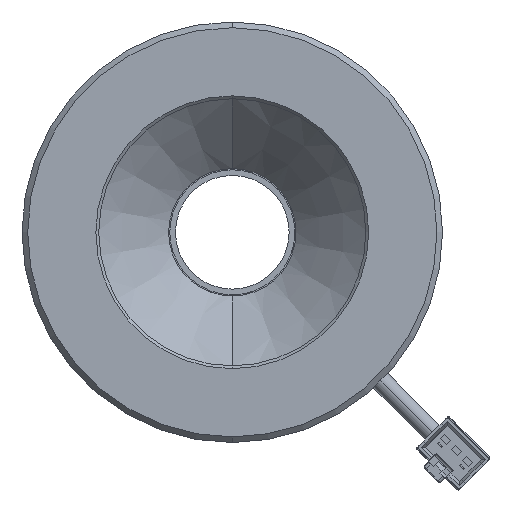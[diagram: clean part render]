
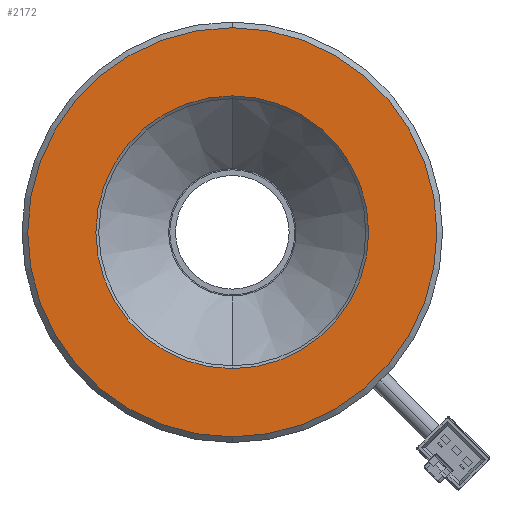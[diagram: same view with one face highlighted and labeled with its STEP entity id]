
A CAD part, front view. The second image highlights one B-rep face of the part: STEP entity #2172.
In plain terms, the highlighted planar face has unit normal (0, -1, 0).
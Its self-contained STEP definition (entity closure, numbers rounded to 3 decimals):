
#171 = DIRECTION ( 'NONE',  ( 0., 0., 1. ) ) ;
#233 = DIRECTION ( 'NONE',  ( 0., 1., 0. ) ) ;
#1074 = DIRECTION ( 'NONE',  ( 0., 1., 0. ) ) ;
#1194 = AXIS2_PLACEMENT_3D ( 'NONE', #7736, #4675, #5440 ) ;
#1665 = DIRECTION ( 'NONE',  ( 0., 1., 0. ) ) ;
#1671 = PLANE ( 'NONE',  #9678 ) ;
#1754 = ORIENTED_EDGE ( 'NONE', *, *, #8764, .T. ) ;
#2172 = ADVANCED_FACE ( 'NONE', ( #5285, #6848 ), #1671, .F. ) ;
#3025 = DIRECTION ( 'NONE',  ( 0., 0., 1. ) ) ;
#3045 = CARTESIAN_POINT ( 'NONE',  ( 0., -18., 24. ) ) ;
#3195 = CARTESIAN_POINT ( 'NONE',  ( 0., -18., 0. ) ) ;
#3225 = DIRECTION ( 'NONE',  ( 0., 0., 1. ) ) ;
#3236 = EDGE_CURVE ( 'NONE', #9225, #8794, #9361, .T. ) ;
#3317 = CARTESIAN_POINT ( 'NONE',  ( 0., -18., 0. ) ) ;
#4141 = EDGE_CURVE ( 'NONE', #9558, #9407, #7986, .T. ) ;
#4215 = ORIENTED_EDGE ( 'NONE', *, *, #4141, .T. ) ;
#4251 = CARTESIAN_POINT ( 'NONE',  ( 0., -18., 0. ) ) ;
#4278 = ORIENTED_EDGE ( 'NONE', *, *, #3236, .F. ) ;
#4391 = CIRCLE ( 'NONE', #1194, 24. ) ;
#4675 = DIRECTION ( 'NONE',  ( 0., 1., 0. ) ) ;
#5285 = FACE_BOUND ( 'NONE', #5799, .T. ) ;
#5440 = DIRECTION ( 'NONE',  ( 0., 0., -1. ) ) ;
#5799 = EDGE_LOOP ( 'NONE', ( #4215, #1754 ) ) ;
#5814 = DIRECTION ( 'NONE',  ( 0., 0., -1. ) ) ;
#6845 = ORIENTED_EDGE ( 'NONE', *, *, #7232, .F. ) ;
#6848 = FACE_OUTER_BOUND ( 'NONE', #7688, .T. ) ;
#6990 = CARTESIAN_POINT ( 'NONE',  ( 0., -18., 0. ) ) ;
#7232 = EDGE_CURVE ( 'NONE', #8794, #9225, #7689, .T. ) ;
#7262 = CARTESIAN_POINT ( 'NONE',  ( 0., -18., -24. ) ) ;
#7392 = AXIS2_PLACEMENT_3D ( 'NONE', #6990, #1665, #3025 ) ;
#7590 = CARTESIAN_POINT ( 'NONE',  ( 0., -18., -36. ) ) ;
#7688 = EDGE_LOOP ( 'NONE', ( #6845, #4278 ) ) ;
#7689 = CIRCLE ( 'NONE', #7392, 36. ) ;
#7736 = CARTESIAN_POINT ( 'NONE',  ( 0., -18., 0. ) ) ;
#7986 = CIRCLE ( 'NONE', #8911, 24. ) ;
#8764 = EDGE_CURVE ( 'NONE', #9407, #9558, #4391, .T. ) ;
#8794 = VERTEX_POINT ( 'NONE', #9860 ) ;
#8911 = AXIS2_PLACEMENT_3D ( 'NONE', #4251, #9662, #5814 ) ;
#9225 = VERTEX_POINT ( 'NONE', #7590 ) ;
#9361 = CIRCLE ( 'NONE', #9621, 36. ) ;
#9407 = VERTEX_POINT ( 'NONE', #3045 ) ;
#9558 = VERTEX_POINT ( 'NONE', #7262 ) ;
#9621 = AXIS2_PLACEMENT_3D ( 'NONE', #3317, #1074, #171 ) ;
#9662 = DIRECTION ( 'NONE',  ( 0., 1., 0. ) ) ;
#9678 = AXIS2_PLACEMENT_3D ( 'NONE', #3195, #233, #3225 ) ;
#9860 = CARTESIAN_POINT ( 'NONE',  ( 0., -18., 36. ) ) ;
